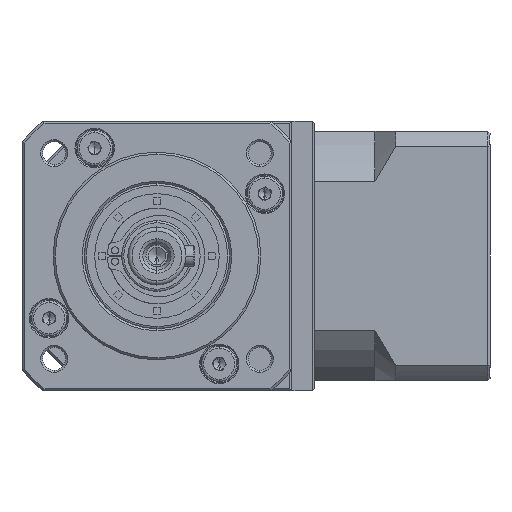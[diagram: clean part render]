
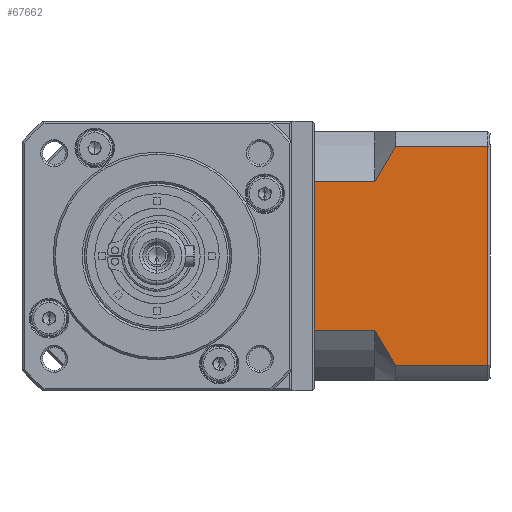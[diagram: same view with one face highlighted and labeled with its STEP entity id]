
A CAD part, left-side view. The second image highlights one B-rep face of the part: STEP entity #67662.
In plain terms, the highlighted planar face has unit normal (-1, 0, 0).
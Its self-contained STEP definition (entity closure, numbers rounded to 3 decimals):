
#1400 = CARTESIAN_POINT ( 'NONE',  ( -38.56, -73.075, -93.122 ) ) ;
#1584 = CARTESIAN_POINT ( 'NONE',  ( -38.56, -72.175, -94.482 ) ) ;
#2138 = EDGE_CURVE ( 'NONE', #78734, #39510, #54631, .T. ) ;
#2479 = DIRECTION ( 'NONE',  ( 0., 1., 0. ) ) ;
#7875 = CARTESIAN_POINT ( 'NONE',  ( -38.56, -73.075, -146.037 ) ) ;
#10115 = CARTESIAN_POINT ( 'NONE',  ( -38.56, -68.075, -146.037 ) ) ;
#10650 = VECTOR ( 'NONE', #52970, 1000. ) ;
#14201 = CARTESIAN_POINT ( 'NONE',  ( -38.56, -69.626, -98.669 ) ) ;
#14694 = CARTESIAN_POINT ( 'NONE',  ( -38.56, -68.075, -93.122 ) ) ;
#15034 = CARTESIAN_POINT ( 'NONE',  ( -38.56, -53.575, -137.608 ) ) ;
#17325 = DIRECTION ( 'NONE',  ( 0., -1., 0. ) ) ;
#17859 = DIRECTION ( 'NONE',  ( 0., 0., -1. ) ) ;
#18938 = CARTESIAN_POINT ( 'NONE',  ( -38.56, -53.575, -149.58 ) ) ;
#20098 = B_SPLINE_CURVE_WITH_KNOTS ( 'NONE', 3,
 ( #1400, #1584, #152991, #14201, #102716, #26823 ),
 .UNSPECIFIED., .F., .F.,
 ( 4, 2, 4 ),
 ( 0.052, 0.057, 0.062 ),
 .UNSPECIFIED. ) ;
#22656 = VERTEX_POINT ( 'NONE', #65985 ) ;
#22797 = DIRECTION ( 'NONE',  ( 0., 1., 0. ) ) ;
#26823 = CARTESIAN_POINT ( 'NONE',  ( -38.56, -68.075, -101.552 ) ) ;
#28703 = VERTEX_POINT ( 'NONE', #95657 ) ;
#30177 = CARTESIAN_POINT ( 'NONE',  ( -38.56, -95.275, -146.037 ) ) ;
#33663 = ORIENTED_EDGE ( 'NONE', *, *, #2138, .T. ) ;
#36485 = CARTESIAN_POINT ( 'NONE',  ( -38.56, -68.075, -101.552 ) ) ;
#39510 = VERTEX_POINT ( 'NONE', #70485 ) ;
#40034 = LINE ( 'NONE', #18938, #73752 ) ;
#40241 = VERTEX_POINT ( 'NONE', #49379 ) ;
#47300 = CARTESIAN_POINT ( 'NONE',  ( -38.56, -95.275, -149.58 ) ) ;
#49379 = CARTESIAN_POINT ( 'NONE',  ( -38.56, -68.075, -137.608 ) ) ;
#50713 = VECTOR ( 'NONE', #59430, 1000. ) ;
#51887 = EDGE_CURVE ( 'NONE', #40241, #28703, #152469, .T. ) ;
#52818 = EDGE_CURVE ( 'NONE', #128036, #39510, #130918, .T. ) ;
#52970 = DIRECTION ( 'NONE',  ( 0., 1., 0. ) ) ;
#54631 = LINE ( 'NONE', #47300, #50713 ) ;
#59101 = EDGE_LOOP ( 'NONE', ( #108065, #33663, #117166, #121500, #73014, #116469, #82938, #63257 ) ) ;
#59430 = DIRECTION ( 'NONE',  ( 0., 0., 1. ) ) ;
#60797 = EDGE_CURVE ( 'NONE', #22656, #123477, #154436, .T. ) ;
#63257 = ORIENTED_EDGE ( 'NONE', *, *, #51887, .T. ) ;
#65985 = CARTESIAN_POINT ( 'NONE',  ( -38.56, -53.575, -101.552 ) ) ;
#67662 = ADVANCED_FACE ( 'NONE', ( #98057 ), #103274, .F. ) ;
#70485 = CARTESIAN_POINT ( 'NONE',  ( -38.56, -95.275, -93.122 ) ) ;
#70951 = CARTESIAN_POINT ( 'NONE',  ( -38.56, -69.625, -140.489 ) ) ;
#73014 = ORIENTED_EDGE ( 'NONE', *, *, #60797, .F. ) ;
#73752 = VECTOR ( 'NONE', #17859, 1000. ) ;
#78369 = DIRECTION ( 'NONE',  ( 1., 0., 0. ) ) ;
#78734 = VERTEX_POINT ( 'NONE', #30177 ) ;
#80088 = LINE ( 'NONE', #10115, #143422 ) ;
#80388 = CARTESIAN_POINT ( 'NONE',  ( -38.56, -68.075, -101.552 ) ) ;
#82938 = ORIENTED_EDGE ( 'NONE', *, *, #140627, .F. ) ;
#83684 = CARTESIAN_POINT ( 'NONE',  ( -38.56, -72.173, -144.675 ) ) ;
#85187 = AXIS2_PLACEMENT_3D ( 'NONE', #154108, #78369, #2479 ) ;
#87180 = VECTOR ( 'NONE', #17325, 1000. ) ;
#95657 = CARTESIAN_POINT ( 'NONE',  ( -38.56, -73.075, -146.037 ) ) ;
#95917 = CARTESIAN_POINT ( 'NONE',  ( -38.56, -68.825, -139.064 ) ) ;
#98057 = FACE_OUTER_BOUND ( 'NONE', #59101, .T. ) ;
#102679 = DIRECTION ( 'NONE',  ( 0., -1., 0. ) ) ;
#102716 = CARTESIAN_POINT ( 'NONE',  ( -38.56, -68.823, -100.1 ) ) ;
#103274 = PLANE ( 'NONE',  #85187 ) ;
#104278 = CARTESIAN_POINT ( 'NONE',  ( -38.56, -73.075, -93.122 ) ) ;
#107676 = LINE ( 'NONE', #116189, #10650 ) ;
#108065 = ORIENTED_EDGE ( 'NONE', *, *, #136259, .F. ) ;
#108645 = CARTESIAN_POINT ( 'NONE',  ( -38.56, -68.075, -137.608 ) ) ;
#116189 = CARTESIAN_POINT ( 'NONE',  ( -38.56, -68.075, -137.608 ) ) ;
#116469 = ORIENTED_EDGE ( 'NONE', *, *, #116653, .T. ) ;
#116653 = EDGE_CURVE ( 'NONE', #22656, #164370, #40034, .T. ) ;
#117166 = ORIENTED_EDGE ( 'NONE', *, *, #52818, .F. ) ;
#119374 = EDGE_CURVE ( 'NONE', #128036, #123477, #20098, .T. ) ;
#121500 = ORIENTED_EDGE ( 'NONE', *, *, #119374, .T. ) ;
#123477 = VERTEX_POINT ( 'NONE', #36485 ) ;
#126944 = VECTOR ( 'NONE', #102679, 1000. ) ;
#128036 = VERTEX_POINT ( 'NONE', #104278 ) ;
#130918 = LINE ( 'NONE', #14694, #126944 ) ;
#136259 = EDGE_CURVE ( 'NONE', #78734, #28703, #80088, .T. ) ;
#140627 = EDGE_CURVE ( 'NONE', #40241, #164370, #107676, .T. ) ;
#143422 = VECTOR ( 'NONE', #22797, 1000. ) ;
#152469 = B_SPLINE_CURVE_WITH_KNOTS ( 'NONE', 3,
 ( #108645, #95917, #70951, #159465, #83684, #7875 ),
 .UNSPECIFIED., .F., .F.,
 ( 4, 2, 4 ),
 ( 0.1, 0.104, 0.109 ),
 .UNSPECIFIED. ) ;
#152991 = CARTESIAN_POINT ( 'NONE',  ( -38.56, -71.302, -95.861 ) ) ;
#154108 = CARTESIAN_POINT ( 'NONE',  ( -38.56, -95.775, -149.58 ) ) ;
#154436 = LINE ( 'NONE', #80388, #87180 ) ;
#159465 = CARTESIAN_POINT ( 'NONE',  ( -38.56, -71.299, -143.295 ) ) ;
#164370 = VERTEX_POINT ( 'NONE', #15034 ) ;
